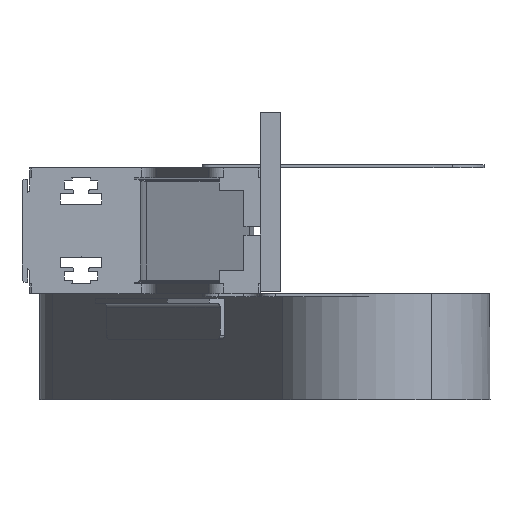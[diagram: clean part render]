
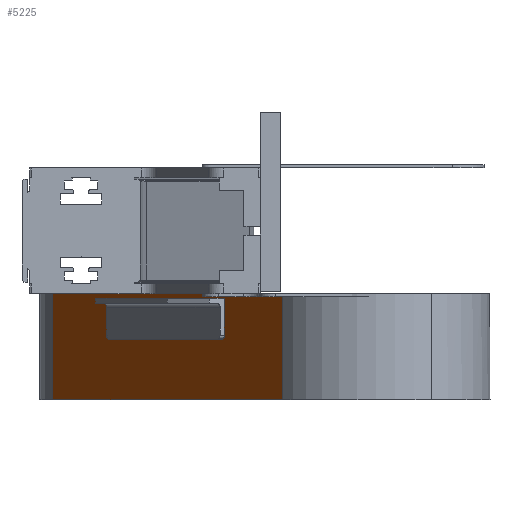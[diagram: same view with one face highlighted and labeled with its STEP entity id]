
A CAD part, left-side view. The second image highlights one B-rep face of the part: STEP entity #5225.
In plain terms, the highlighted planar face has unit normal (-0.469, 0.883, 0).
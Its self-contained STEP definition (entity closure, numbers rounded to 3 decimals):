
#418 = VERTEX_POINT ( 'NONE', #4068 ) ;
#916 = CARTESIAN_POINT ( 'NONE',  ( -429.395, -123.506, -38.5 ) ) ;
#1201 = DIRECTION ( 'NONE',  ( 0.469, -0.883, 0. ) ) ;
#1202 = CARTESIAN_POINT ( 'NONE',  ( -360.084, -86.652, -66.5 ) ) ;
#1342 = FACE_BOUND ( 'NONE', #5435, .T. ) ;
#1446 = CIRCLE ( 'NONE', #19706, 2.5 ) ;
#1696 = ORIENTED_EDGE ( 'NONE', *, *, #13048, .T. ) ;
#1990 = CARTESIAN_POINT ( 'NONE',  ( -231.615, -18.344, -66.5 ) ) ;
#2059 = AXIS2_PLACEMENT_3D ( 'NONE', #15243, #1201, #18782 ) ;
#2432 = VECTOR ( 'NONE', #15525, 1000. ) ;
#2657 = EDGE_CURVE ( 'NONE', #6155, #5547, #5137, .T. ) ;
#2673 = EDGE_LOOP ( 'NONE', ( #1696, #12019, #13242, #15601 ) ) ;
#3030 = CARTESIAN_POINT ( 'NONE',  ( -429.395, -123.506, -103.5 ) ) ;
#3408 = CARTESIAN_POINT ( 'NONE',  ( -429.395, -123.506, -103.5 ) ) ;
#3553 = VECTOR ( 'NONE', #12610, 1000. ) ;
#3708 = AXIS2_PLACEMENT_3D ( 'NONE', #21792, #18493, #7735 ) ;
#3781 = DIRECTION ( 'NONE',  ( -0.883, -0.469, 0. ) ) ;
#3825 = ORIENTED_EDGE ( 'NONE', *, *, #8438, .F. ) ;
#3993 = VERTEX_POINT ( 'NONE', #21194 ) ;
#4068 = CARTESIAN_POINT ( 'NONE',  ( -231.615, -18.344, -41.5 ) ) ;
#4307 = VECTOR ( 'NONE', #21116, 1000. ) ;
#4328 = VERTEX_POINT ( 'NONE', #916 ) ;
#4345 = DIRECTION ( 'NONE',  ( 0., 0., 1. ) ) ;
#4470 = DIRECTION ( 'NONE',  ( 0.883, 0.469, 0. ) ) ;
#5137 = LINE ( 'NONE', #9619, #18622 ) ;
#5225 = ADVANCED_FACE ( 'NONE', ( #1342, #13792 ), #7663, .F. ) ;
#5435 = EDGE_LOOP ( 'NONE', ( #20238, #3825, #8116, #21346, #8184, #20253 ) ) ;
#5547 = VERTEX_POINT ( 'NONE', #10706 ) ;
#6155 = VERTEX_POINT ( 'NONE', #12494 ) ;
#6252 = VERTEX_POINT ( 'NONE', #3030 ) ;
#6378 = LINE ( 'NONE', #19951, #15744 ) ;
#7454 = EDGE_CURVE ( 'NONE', #20783, #17729, #1446, .T. ) ;
#7663 = PLANE ( 'NONE',  #3708 ) ;
#7735 = DIRECTION ( 'NONE',  ( 0.883, 0.469, 0. ) ) ;
#7996 = LINE ( 'NONE', #22857, #3553 ) ;
#8051 = VERTEX_POINT ( 'NONE', #17037 ) ;
#8116 = ORIENTED_EDGE ( 'NONE', *, *, #2657, .F. ) ;
#8184 = ORIENTED_EDGE ( 'NONE', *, *, #10183, .F. ) ;
#8438 = EDGE_CURVE ( 'NONE', #5547, #418, #6378, .T. ) ;
#8455 = CARTESIAN_POINT ( 'NONE',  ( -164.511, 17.336, -103.5 ) ) ;
#8758 = LINE ( 'NONE', #3408, #4307 ) ;
#8762 = LINE ( 'NONE', #1990, #21675 ) ;
#9414 = DIRECTION ( 'NONE',  ( 0.883, 0.469, 0. ) ) ;
#9509 = EDGE_CURVE ( 'NONE', #6252, #4328, #14326, .T. ) ;
#9619 = CARTESIAN_POINT ( 'NONE',  ( -362.291, -87.826, -44.5 ) ) ;
#9635 = VECTOR ( 'NONE', #4345, 1000. ) ;
#9647 = CARTESIAN_POINT ( 'NONE',  ( -429.395, -123.506, -38.5 ) ) ;
#10183 = EDGE_CURVE ( 'NONE', #20783, #16296, #8762, .T. ) ;
#10706 = CARTESIAN_POINT ( 'NONE',  ( -362.291, -87.826, -41.5 ) ) ;
#10988 = EDGE_CURVE ( 'NONE', #3993, #8051, #19556, .T. ) ;
#11155 = CARTESIAN_POINT ( 'NONE',  ( -231.615, -18.344, -64. ) ) ;
#11528 = CARTESIAN_POINT ( 'NONE',  ( -429.395, -123.506, -103.5 ) ) ;
#11606 = EDGE_CURVE ( 'NONE', #6252, #3993, #8758, .T. ) ;
#12019 = ORIENTED_EDGE ( 'NONE', *, *, #10988, .F. ) ;
#12494 = CARTESIAN_POINT ( 'NONE',  ( -362.291, -87.826, -64. ) ) ;
#12610 = DIRECTION ( 'NONE',  ( 0., 0., 1. ) ) ;
#13048 = EDGE_CURVE ( 'NONE', #4328, #8051, #15834, .T. ) ;
#13242 = ORIENTED_EDGE ( 'NONE', *, *, #11606, .F. ) ;
#13792 = FACE_OUTER_BOUND ( 'NONE', #2673, .T. ) ;
#14326 = LINE ( 'NONE', #11528, #9635 ) ;
#14670 = EDGE_CURVE ( 'NONE', #6155, #16296, #19564, .T. ) ;
#15243 = CARTESIAN_POINT ( 'NONE',  ( -360.084, -86.652, -64. ) ) ;
#15321 = DIRECTION ( 'NONE',  ( 0.469, -0.883, 0. ) ) ;
#15525 = DIRECTION ( 'NONE',  ( 0., 0., 1. ) ) ;
#15601 = ORIENTED_EDGE ( 'NONE', *, *, #9509, .T. ) ;
#15744 = VECTOR ( 'NONE', #9414, 1000. ) ;
#15834 = LINE ( 'NONE', #9647, #21320 ) ;
#16296 = VERTEX_POINT ( 'NONE', #1202 ) ;
#16787 = DIRECTION ( 'NONE',  ( 0.883, 0.469, 0. ) ) ;
#17037 = CARTESIAN_POINT ( 'NONE',  ( -164.511, 17.336, -38.5 ) ) ;
#17314 = EDGE_CURVE ( 'NONE', #17729, #418, #7996, .T. ) ;
#17729 = VERTEX_POINT ( 'NONE', #11155 ) ;
#18290 = DIRECTION ( 'NONE',  ( 0., 0., 1. ) ) ;
#18493 = DIRECTION ( 'NONE',  ( 0.469, -0.883, 0. ) ) ;
#18622 = VECTOR ( 'NONE', #18290, 1000. ) ;
#18635 = CARTESIAN_POINT ( 'NONE',  ( -233.823, -19.518, -64. ) ) ;
#18782 = DIRECTION ( 'NONE',  ( 0.883, 0.469, 0. ) ) ;
#19556 = LINE ( 'NONE', #8455, #2432 ) ;
#19564 = CIRCLE ( 'NONE', #2059, 2.5 ) ;
#19706 = AXIS2_PLACEMENT_3D ( 'NONE', #18635, #15321, #4470 ) ;
#19951 = CARTESIAN_POINT ( 'NONE',  ( -43.445, 81.708, -41.5 ) ) ;
#20238 = ORIENTED_EDGE ( 'NONE', *, *, #17314, .T. ) ;
#20253 = ORIENTED_EDGE ( 'NONE', *, *, #7454, .T. ) ;
#20783 = VERTEX_POINT ( 'NONE', #21762 ) ;
#21116 = DIRECTION ( 'NONE',  ( 0.883, 0.469, 0. ) ) ;
#21194 = CARTESIAN_POINT ( 'NONE',  ( -164.511, 17.336, -103.5 ) ) ;
#21320 = VECTOR ( 'NONE', #16787, 1000. ) ;
#21346 = ORIENTED_EDGE ( 'NONE', *, *, #14670, .T. ) ;
#21675 = VECTOR ( 'NONE', #3781, 1000. ) ;
#21762 = CARTESIAN_POINT ( 'NONE',  ( -233.823, -19.518, -66.5 ) ) ;
#21792 = CARTESIAN_POINT ( 'NONE',  ( -429.395, -123.506, -103.5 ) ) ;
#22857 = CARTESIAN_POINT ( 'NONE',  ( -231.615, -18.344, -44.5 ) ) ;
